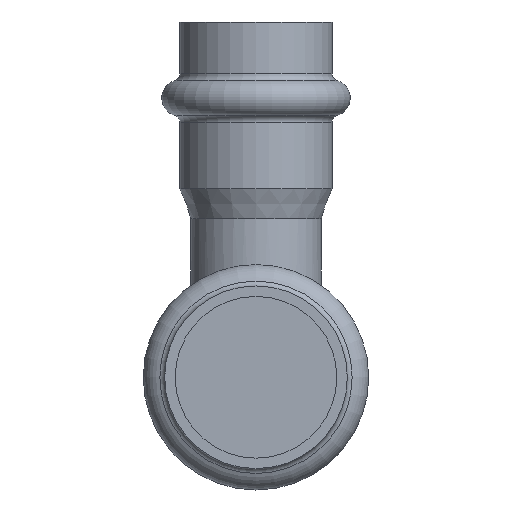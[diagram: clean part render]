
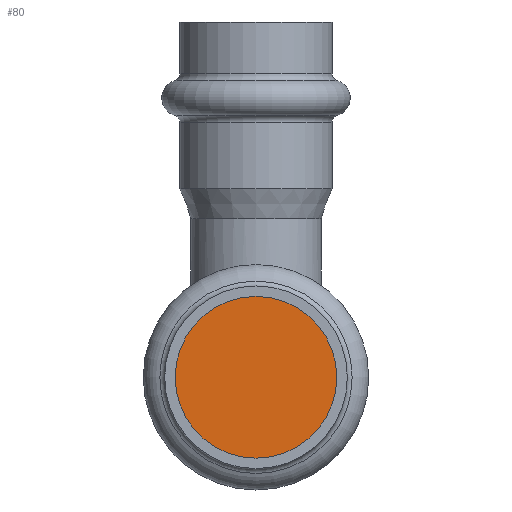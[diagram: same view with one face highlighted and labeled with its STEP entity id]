
A CAD part, front view. The second image highlights one B-rep face of the part: STEP entity #80.
In plain terms, the highlighted planar face has unit normal (0, -1, 0).
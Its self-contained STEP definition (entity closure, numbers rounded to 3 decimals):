
#80=ADVANCED_FACE('',(#325),#327,.T.);
#325=FACE_BOUND('',#326,.T.);
#326=EDGE_LOOP('',(#395));
#327=PLANE('',#328);
#328=AXIS2_PLACEMENT_3D('',#329,#330,#331);
#329=CARTESIAN_POINT('',(0.,-41.029,0.));
#330=DIRECTION('',(0.,-1.,0.));
#331=DIRECTION('',(0.,0.,-1.));
#395=ORIENTED_EDGE('',*,*,#424,.T.);
#424=EDGE_CURVE('',#480,#480,#481,.F.);
#480=VERTEX_POINT('',#869);
#481=CIRCLE('',#870,11.15);
#869=CARTESIAN_POINT('',(0.,-41.029,11.15));
#870=AXIS2_PLACEMENT_3D('',#871,#872,#873);
#871=CARTESIAN_POINT('',(0.,-41.029,0.));
#872=DIRECTION('',(0.,1.,0.));
#873=DIRECTION('',(0.,0.,1.));
